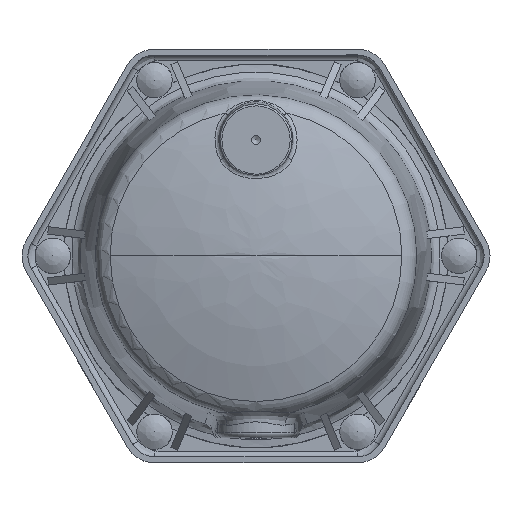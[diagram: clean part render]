
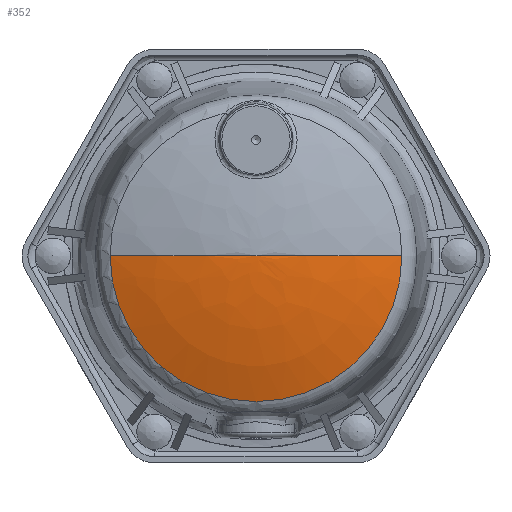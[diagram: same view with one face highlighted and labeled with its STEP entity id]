
A CAD part, top view. The second image highlights one B-rep face of the part: STEP entity #352.
In plain terms, the highlighted free-form (B-spline) face has degree [2, 2] with [3, 7] control points.
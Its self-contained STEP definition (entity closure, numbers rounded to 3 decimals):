
#294=CARTESIAN_POINT('',(148.303,2.517,171.08));
#295=CARTESIAN_POINT('',(76.21,1.288,195.791));
#296=CARTESIAN_POINT('',(0.,-0.01,195.788));
#297=CARTESIAN_POINT('',(148.325,1.254,171.08));
#298=CARTESIAN_POINT('',(76.221,0.639,195.791));
#299=CARTESIAN_POINT('',(0.,-0.01,195.788));
#300=CARTESIAN_POINT('',(148.325,-0.009,171.08));
#301=CARTESIAN_POINT('',(76.221,-0.01,195.791));
#302=CARTESIAN_POINT('',(0.,-0.01,195.788));
#303=CARTESIAN_POINT('',(148.325,-148.334,171.071));
#304=CARTESIAN_POINT('',(76.221,-76.231,195.787));
#305=CARTESIAN_POINT('',(0.,-0.01,195.788));
#306=CARTESIAN_POINT('',(0.,-148.334,171.071));
#307=CARTESIAN_POINT('',(0.,-76.231,195.787));
#308=CARTESIAN_POINT('',(0.,-0.01,195.788));
#309=CARTESIAN_POINT('',(-148.325,-148.334,171.071));
#310=CARTESIAN_POINT('',(-76.221,-76.231,195.787));
#311=CARTESIAN_POINT('',(0.,-0.01,195.788));
#312=CARTESIAN_POINT('',(-148.325,-0.009,171.08));
#313=CARTESIAN_POINT('',(-76.221,-0.01,195.791));
#314=CARTESIAN_POINT('',(0.,-0.01,195.788));
#322=(BOUNDED_SURFACE()B_SPLINE_SURFACE(2,2,((#294,#297,#300,#303,#306,#309,#312),(#295,#298,#301,#304,#307,#310,#313),(#296,#299,#302,#305,#308,#311,#314)),.UNSPECIFIED.,.F.,.F.,.U.)B_SPLINE_SURFACE_WITH_KNOTS((3,3),(3,2,2,3),(1.241,1.571),(3.123,3.142,4.712,6.283),.UNSPECIFIED.)GEOMETRIC_REPRESENTATION_ITEM()RATIONAL_B_SPLINE_SURFACE(((0.993,0.996,1.,0.707,1.,0.707,1.),(0.98,0.983,0.986,0.697,0.986,0.697,0.986),(0.993,0.996,1.0,0.707,1.0,0.707,1.0)))REPRESENTATION_ITEM('')SURFACE());
#323=CARTESIAN_POINT('',(0.0,-0.01,195.788));
#324=VERTEX_POINT('',#323);
#325=CARTESIAN_POINT('',(148.325,-0.009,171.08));
#326=VERTEX_POINT('',#325);
#327=CARTESIAN_POINT('',(0.015,0.015,-261.666));
#328=DIRECTION('',(0.0,1.,0.));
#329=DIRECTION('',(1.0,0.0,0.0));
#330=AXIS2_PLACEMENT_3D('',#327,#328,#329);
#331=CIRCLE('',#330,457.455);
#332=EDGE_CURVE('',#324,#326,#331,.T.);
#333=ORIENTED_EDGE('',*,*,#332,.F.);
#334=CARTESIAN_POINT('',(-148.325,-0.009,171.08));
#335=VERTEX_POINT('',#334);
#336=CARTESIAN_POINT('',(-0.015,0.015,-261.666));
#337=DIRECTION('',(0.0,-1.,0.));
#338=DIRECTION('',(-1.0,0.0,0.0));
#339=AXIS2_PLACEMENT_3D('',#336,#337,#338);
#340=CIRCLE('',#339,457.455);
#341=EDGE_CURVE('',#324,#335,#340,.T.);
#342=ORIENTED_EDGE('',*,*,#341,.T.);
#343=CARTESIAN_POINT('',(0.0,-0.009,171.08));
#344=DIRECTION('',(0.0,0.,1.));
#345=DIRECTION('',(0.0,-1.,0.));
#346=AXIS2_PLACEMENT_3D('',#343,#344,#345);
#347=CIRCLE('',#346,148.325);
#348=EDGE_CURVE('',#335,#326,#347,.T.);
#349=ORIENTED_EDGE('',*,*,#348,.T.);
#350=EDGE_LOOP('',(#333,#342,#349));
#351=FACE_OUTER_BOUND('',#350,.T.);
#352=ADVANCED_FACE('',(#351),#322,.T.);
